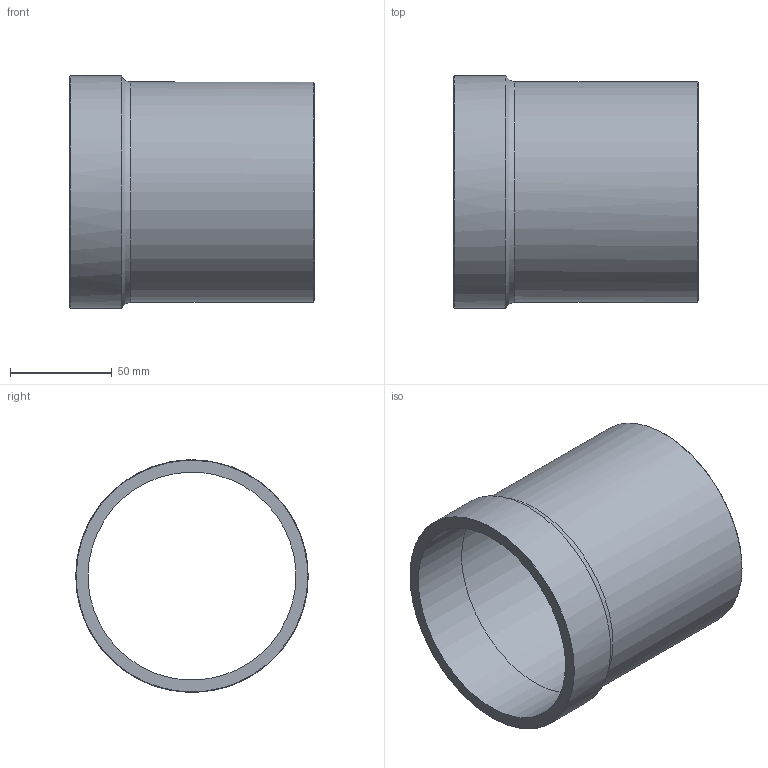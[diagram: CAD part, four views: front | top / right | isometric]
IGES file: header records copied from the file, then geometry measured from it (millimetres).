
Global section: file name: C13AM; native system: Autodesk Inventor 2023; preprocessor: unknown; author: lvalentini; date: 20230921.085010; units: millimetre
Bounding box: 120 x 114 x 113.93 mm (x, y, z)
Volume: 117635.4 mm3; surface area: 83579.5 mm2
Topology: 1 solids, 1 shells, 10 faces, 27 edges, 20 vertices
Faces by surface type: bspline 10
